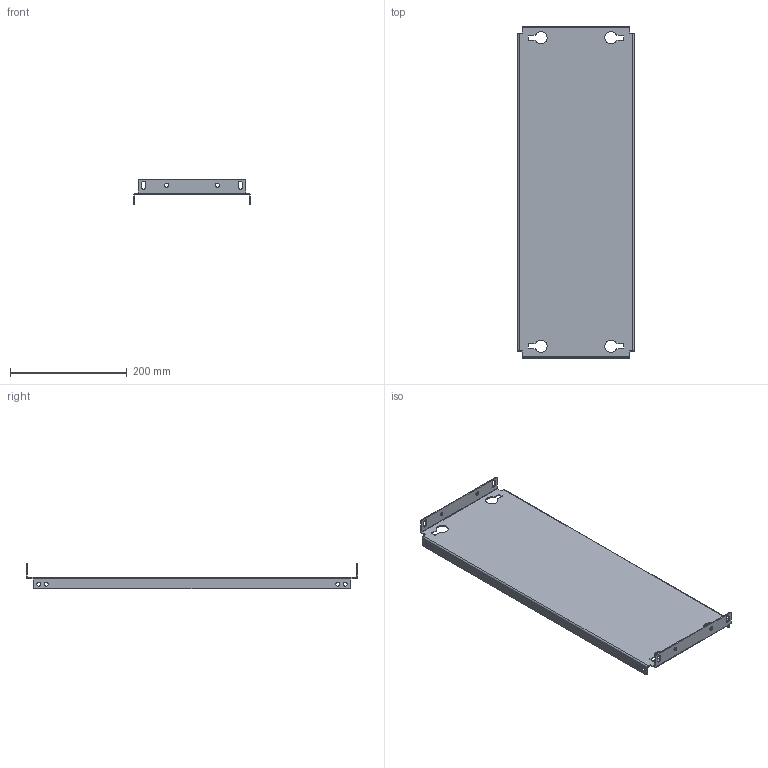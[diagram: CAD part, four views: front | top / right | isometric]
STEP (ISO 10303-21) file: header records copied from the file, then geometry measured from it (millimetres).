
FILE_DESCRIPTION (( 'STEP AP203' ), '1' );
FILE_NAME ('R5PPS6003.STEP', '2021-12-20T06:27:24', ( '' ), ( '' ), 'SwSTEP 2.0', 'SolidWorks 2020', '' );
FILE_SCHEMA (( 'CONFIG_CONTROL_DESIGN' ));
Length unit declared in the file: millimetre
Products named in the file (1): R5PPS6003
Bounding box: 200 x 569 x 43 mm (x, y, z)
Volume: 274338.5 mm3; surface area: 279241.4 mm2
Topology: 1 solids, 1 shells, 132 faces, 358 edges, 228 vertices
Faces by surface type: cylinder 74, plane 58
Entity records: 4331 total; most frequent: DIRECTION 772, CARTESIAN_POINT 719, ORIENTED_EDGE 716, EDGE_CURVE 358, AXIS2_PLACEMENT_3D 281, VERTEX_POINT 228, VECTOR 210, LINE 210
